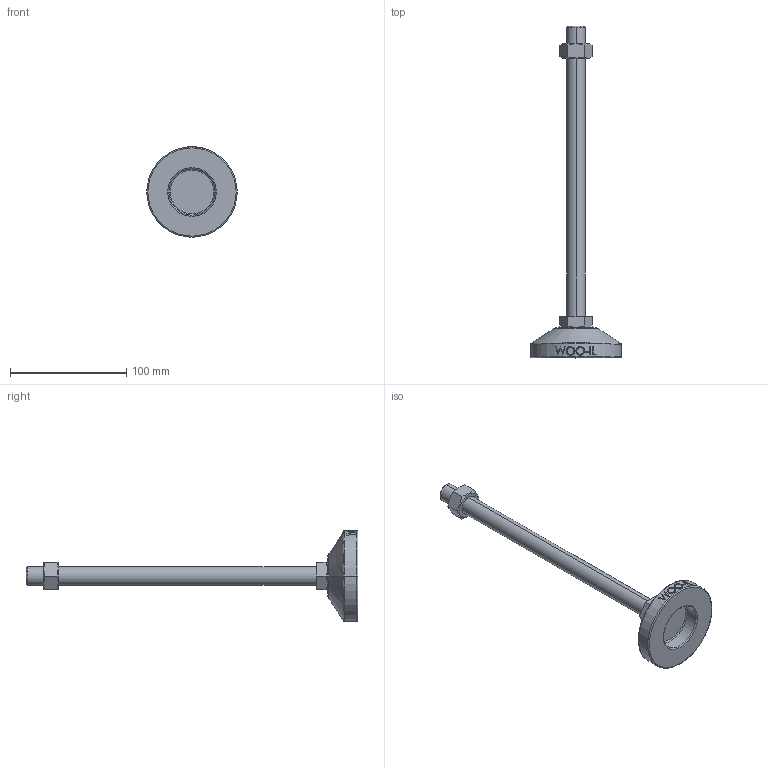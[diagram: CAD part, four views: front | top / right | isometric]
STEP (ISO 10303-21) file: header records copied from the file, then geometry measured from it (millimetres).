
FILE_DESCRIPTION (( 'STEP AP214' ), '1' );
FILE_NAME ('MF78-M16-250.step', '2021-02-03T08:20:57', ( '' ), ( '' ), 'SwSTEP 2.0', 'SolidWorks 2019', '' );
FILE_SCHEMA (( 'AUTOMOTIVE_DESIGN' ));
Length unit declared in the file: millimetre
Products named in the file (2): MF78-M16-250
Bounding box: 78 x 286 x 78 mm (x, y, z)
Volume: 138870.6 mm3; surface area: 31287.9 mm2
Topology: 3 solids, 3 shells, 106 faces, 243 edges, 154 vertices
Faces by surface type: plane 48, cylinder 18, bspline 16, cone 14, torus 10
Entity records: 4520 total; most frequent: CARTESIAN_POINT 2177, ORIENTED_EDGE 486, DIRECTION 439, EDGE_CURVE 243, AXIS2_PLACEMENT_3D 170, VERTEX_POINT 154, EDGE_LOOP 119, FACE_OUTER_BOUND 106
